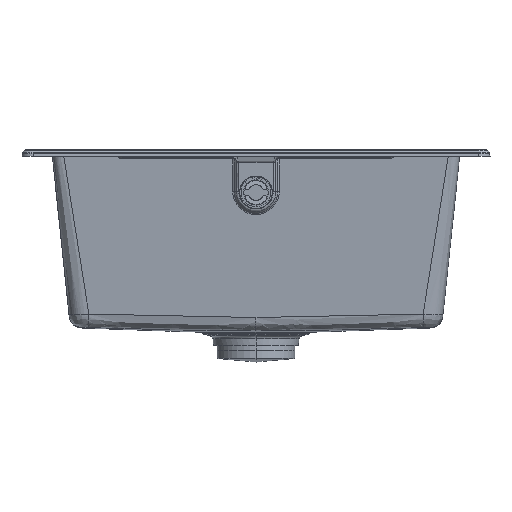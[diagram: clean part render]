
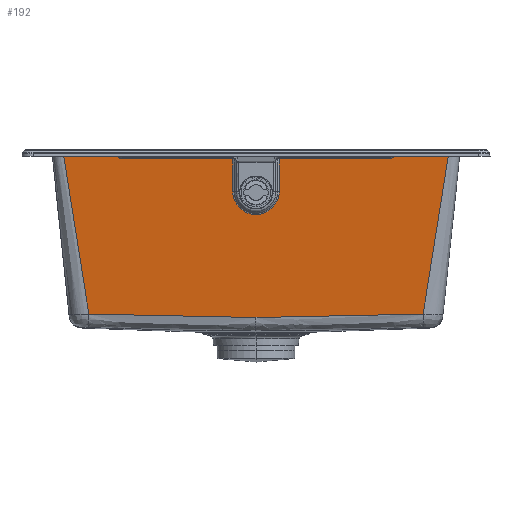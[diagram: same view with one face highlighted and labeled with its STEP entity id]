
A CAD part, left-side view. The second image highlights one B-rep face of the part: STEP entity #192.
In plain terms, the highlighted planar face has unit normal (0.995, 0, 0.104).
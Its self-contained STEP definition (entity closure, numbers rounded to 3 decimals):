
#192=ADVANCED_FACE('',(#610),#7096,.T.);
#610=FACE_OUTER_BOUND('',#1030,.T.);
#1030=EDGE_LOOP('',(#1818,#1819,#1820,#1821,#1822,#1823,#1824,#1825,#1826,
#1827,#1828,#1829,#1830,#1831,#1832));
#1818=ORIENTED_EDGE('',*,*,#3933,.F.);
#1819=ORIENTED_EDGE('',*,*,#3932,.F.);
#1820=ORIENTED_EDGE('',*,*,#3931,.F.);
#1821=ORIENTED_EDGE('',*,*,#3930,.F.);
#1822=ORIENTED_EDGE('',*,*,#3951,.F.);
#1823=ORIENTED_EDGE('',*,*,#3929,.F.);
#1824=ORIENTED_EDGE('',*,*,#3928,.F.);
#1825=ORIENTED_EDGE('',*,*,#3927,.F.);
#1826=ORIENTED_EDGE('',*,*,#3971,.F.);
#1827=ORIENTED_EDGE('',*,*,#3926,.F.);
#1828=ORIENTED_EDGE('',*,*,#3908,.F.);
#1829=ORIENTED_EDGE('',*,*,#3925,.F.);
#1830=ORIENTED_EDGE('',*,*,#3924,.F.);
#1831=ORIENTED_EDGE('',*,*,#3923,.F.);
#1832=ORIENTED_EDGE('',*,*,#3922,.F.);
#3908=EDGE_CURVE('',#6136,#6135,#5364,.T.);
#3922=EDGE_CURVE('',#6145,#6112,#5374,.T.);
#3923=EDGE_CURVE('',#6112,#6117,#5375,.T.);
#3924=EDGE_CURVE('',#6117,#6146,#5376,.T.);
#3925=EDGE_CURVE('',#6146,#6136,#5377,.T.);
#3926=EDGE_CURVE('',#6135,#6144,#5378,.T.);
#3927=EDGE_CURVE('',#6147,#6148,#5379,.T.);
#3928=EDGE_CURVE('',#6148,#6149,#5380,.T.);
#3929=EDGE_CURVE('',#6149,#6150,#5381,.T.);
#3930=EDGE_CURVE('',#6151,#6152,#5382,.T.);
#3931=EDGE_CURVE('',#6152,#6153,#5383,.T.);
#3932=EDGE_CURVE('',#6153,#6154,#5384,.T.);
#3933=EDGE_CURVE('',#6154,#6145,#5385,.T.);
#3951=EDGE_CURVE('',#6150,#6151,#4945,.T.);
#3971=EDGE_CURVE('',#6144,#6147,#5400,.T.);
#4945=(
BOUNDED_CURVE()
B_SPLINE_CURVE(2,(#16535,#16536,#16537,#16538,#16539),.UNSPECIFIED.,.F.,
 .F.)
B_SPLINE_CURVE_WITH_KNOTS((3,2,3),(0.,39.,78.001),
 .UNSPECIFIED.)
CURVE()
GEOMETRIC_REPRESENTATION_ITEM()
RATIONAL_B_SPLINE_CURVE((1.,0.707,1.,0.707,1.))
REPRESENTATION_ITEM('')
);
#5364=B_SPLINE_CURVE_WITH_KNOTS('',3,(#16320,#16321,#16322,#16323),
 .UNSPECIFIED.,.F.,.F.,(4,4),(-173.816,0.),.UNSPECIFIED.);
#5374=B_SPLINE_CURVE_WITH_KNOTS('',1,(#16411,#16412),.UNSPECIFIED.,.F.,
 .F.,(2,2),(-55.887,0.),.UNSPECIFIED.);
#5375=B_SPLINE_CURVE_WITH_KNOTS('',1,(#16413,#16414),.UNSPECIFIED.,.F.,
 .F.,(2,2),(0.,173.816),.UNSPECIFIED.);
#5376=B_SPLINE_CURVE_WITH_KNOTS('',3,(#16415,#16416,#16417,#16418,#16419,
#16420,#16421,#16422),.UNSPECIFIED.,.F.,.F.,(4,1,1,1,1,4),(-1.,-0.75,-0.5,
-0.25,-0.125,0.),.UNSPECIFIED.);
#5377=B_SPLINE_CURVE_WITH_KNOTS('',3,(#16423,#16424,#16425,#16426,#16427,
#16428,#16429,#16430),.UNSPECIFIED.,.F.,.F.,(4,1,1,1,1,4),(-1.,-0.875,-0.75,
-0.5,-0.25,0.),.UNSPECIFIED.);
#5378=B_SPLINE_CURVE_WITH_KNOTS('',1,(#16431,#16432),.UNSPECIFIED.,.F.,
 .F.,(2,2),(-55.887,0.),.UNSPECIFIED.);
#5379=B_SPLINE_CURVE_WITH_KNOTS('',3,(#16433,#16434,#16435,#16436,#16437,
#16438,#16439,#16440,#16441,#16442,#16443),.UNSPECIFIED.,.F.,.F.,(4,1,1,
1,1,1,1,1,4),(-1.,-0.875,-0.75,-0.625,-0.5,-0.375,-0.25,-0.125,0.),
 .UNSPECIFIED.);
#5380=B_SPLINE_CURVE_WITH_KNOTS('',1,(#16444,#16445),.UNSPECIFIED.,.F.,
 .F.,(2,2),(-117.529,0.),.UNSPECIFIED.);
#5381=B_SPLINE_CURVE_WITH_KNOTS('',1,(#16446,#16447),.UNSPECIFIED.,.F.,
 .F.,(2,2),(0.,35.005),.UNSPECIFIED.);
#5382=B_SPLINE_CURVE_WITH_KNOTS('',1,(#16448,#16449),.UNSPECIFIED.,.F.,
 .F.,(2,2),(0.,35.005),.UNSPECIFIED.);
#5383=B_SPLINE_CURVE_WITH_KNOTS('',1,(#16450,#16451),.UNSPECIFIED.,.F.,
 .F.,(2,2),(-117.529,0.),.UNSPECIFIED.);
#5384=B_SPLINE_CURVE_WITH_KNOTS('',3,(#16452,#16453,#16454,#16455,#16456,
#16457,#16458,#16459,#16460,#16461,#16462),.UNSPECIFIED.,.F.,.F.,(4,1,1,
1,1,1,1,1,4),(-1.,-0.875,-0.75,-0.625,-0.5,-0.375,-0.25,-0.125,0.),
 .UNSPECIFIED.);
#5385=B_SPLINE_CURVE_WITH_KNOTS('',1,(#16463,#16464),.UNSPECIFIED.,.F.,
 .F.,(2,2),(-4.553,0.),.UNSPECIFIED.);
#5400=B_SPLINE_CURVE_WITH_KNOTS('',1,(#16634,#16635),.UNSPECIFIED.,.F.,
 .F.,(2,2),(-4.553,0.),.UNSPECIFIED.);
#6112=VERTEX_POINT('',#15054);
#6117=VERTEX_POINT('',#15059);
#6135=VERTEX_POINT('',#15077);
#6136=VERTEX_POINT('',#15078);
#6144=VERTEX_POINT('',#15086);
#6145=VERTEX_POINT('',#15087);
#6146=VERTEX_POINT('',#15088);
#6147=VERTEX_POINT('',#15089);
#6148=VERTEX_POINT('',#15090);
#6149=VERTEX_POINT('',#15091);
#6150=VERTEX_POINT('',#15092);
#6151=VERTEX_POINT('',#15093);
#6152=VERTEX_POINT('',#15094);
#6153=VERTEX_POINT('',#15095);
#6154=VERTEX_POINT('',#15096);
#7096=PLANE('',#7157);
#7157=AXIS2_PLACEMENT_3D('',#9904,#7202,$);
#7202=DIRECTION('',(0.995,0.,0.105));
#9904=CARTESIAN_POINT('',(-26.177,182.965,-196.786));
#15054=CARTESIAN_POINT('',(-46.357,141.715,-4.791));
#15059=CARTESIAN_POINT('',(-28.41,114.591,-175.537));
#15077=CARTESIAN_POINT('',(-46.357,-269.715,-4.791));
#15078=CARTESIAN_POINT('',(-28.41,-242.59,-175.537));
#15086=CARTESIAN_POINT('',(-46.357,-213.828,-4.791));
#15087=CARTESIAN_POINT('',(-46.357,85.828,-4.791));
#15088=CARTESIAN_POINT('',(-28.023,-64.,-179.225));
#15089=CARTESIAN_POINT('',(-46.019,-210.618,-8.001));
#15090=CARTESIAN_POINT('',(-45.834,-206.358,-9.768));
#15091=CARTESIAN_POINT('',(-45.834,-88.828,-9.768));
#15092=CARTESIAN_POINT('',(-42.175,-88.828,-44.581));
#15093=CARTESIAN_POINT('',(-42.175,-39.172,-44.581));
#15094=CARTESIAN_POINT('',(-45.834,-39.172,-9.768));
#15095=CARTESIAN_POINT('',(-45.834,78.358,-9.768));
#15096=CARTESIAN_POINT('',(-46.019,82.618,-8.001));
#16320=CARTESIAN_POINT('',(-28.41,-242.59,-175.537));
#16321=CARTESIAN_POINT('',(-34.392,-251.632,-118.622));
#16322=CARTESIAN_POINT('',(-40.375,-260.674,-61.706));
#16323=CARTESIAN_POINT('',(-46.357,-269.715,-4.791));
#16411=CARTESIAN_POINT('',(-46.357,85.828,-4.791));
#16412=CARTESIAN_POINT('',(-46.357,141.715,-4.791));
#16413=CARTESIAN_POINT('',(-46.357,141.715,-4.791));
#16414=CARTESIAN_POINT('',(-28.41,114.591,-175.537));
#16415=CARTESIAN_POINT('',(-28.41,114.591,-175.537));
#16416=CARTESIAN_POINT('',(-28.362,99.696,-175.993));
#16417=CARTESIAN_POINT('',(-28.269,69.909,-176.88));
#16418=CARTESIAN_POINT('',(-28.145,25.238,-178.067));
#16419=CARTESIAN_POINT('',(-28.065,-11.963,-178.825));
#16420=CARTESIAN_POINT('',(-28.029,-41.703,-179.165));
#16421=CARTESIAN_POINT('',(-28.023,-56.568,-179.225));
#16422=CARTESIAN_POINT('',(-28.023,-64.,-179.225));
#16423=CARTESIAN_POINT('',(-28.023,-64.,-179.225));
#16424=CARTESIAN_POINT('',(-28.023,-71.432,-179.225));
#16425=CARTESIAN_POINT('',(-28.029,-86.297,-179.165));
#16426=CARTESIAN_POINT('',(-28.065,-116.036,-178.825));
#16427=CARTESIAN_POINT('',(-28.145,-153.238,-178.067));
#16428=CARTESIAN_POINT('',(-28.269,-197.907,-176.88));
#16429=CARTESIAN_POINT('',(-28.362,-227.695,-175.993));
#16430=CARTESIAN_POINT('',(-28.41,-242.59,-175.537));
#16431=CARTESIAN_POINT('',(-46.357,-269.715,-4.791));
#16432=CARTESIAN_POINT('',(-46.357,-213.828,-4.791));
#16433=CARTESIAN_POINT('',(-46.019,-210.618,-8.001));
#16434=CARTESIAN_POINT('',(-46.005,-210.479,-8.14));
#16435=CARTESIAN_POINT('',(-45.977,-210.189,-8.404));
#16436=CARTESIAN_POINT('',(-45.94,-209.712,-8.758));
#16437=CARTESIAN_POINT('',(-45.908,-209.202,-9.064));
#16438=CARTESIAN_POINT('',(-45.881,-208.663,-9.319));
#16439=CARTESIAN_POINT('',(-45.86,-208.103,-9.519));
#16440=CARTESIAN_POINT('',(-45.845,-207.526,-9.663));
#16441=CARTESIAN_POINT('',(-45.836,-206.943,-9.749));
#16442=CARTESIAN_POINT('',(-45.834,-206.553,-9.768));
#16443=CARTESIAN_POINT('',(-45.834,-206.358,-9.768));
#16444=CARTESIAN_POINT('',(-45.834,-206.358,-9.768));
#16445=CARTESIAN_POINT('',(-45.834,-88.828,-9.768));
#16446=CARTESIAN_POINT('',(-45.834,-88.828,-9.768));
#16447=CARTESIAN_POINT('',(-42.175,-88.828,-44.581));
#16448=CARTESIAN_POINT('',(-42.175,-39.172,-44.581));
#16449=CARTESIAN_POINT('',(-45.834,-39.172,-9.768));
#16450=CARTESIAN_POINT('',(-45.834,-39.172,-9.768));
#16451=CARTESIAN_POINT('',(-45.834,78.358,-9.768));
#16452=CARTESIAN_POINT('',(-45.834,78.358,-9.768));
#16453=CARTESIAN_POINT('',(-45.834,78.553,-9.768));
#16454=CARTESIAN_POINT('',(-45.836,78.943,-9.749));
#16455=CARTESIAN_POINT('',(-45.845,79.526,-9.663));
#16456=CARTESIAN_POINT('',(-45.86,80.103,-9.519));
#16457=CARTESIAN_POINT('',(-45.881,80.663,-9.319));
#16458=CARTESIAN_POINT('',(-45.908,81.202,-9.064));
#16459=CARTESIAN_POINT('',(-45.94,81.712,-8.758));
#16460=CARTESIAN_POINT('',(-45.977,82.189,-8.404));
#16461=CARTESIAN_POINT('',(-46.005,82.479,-8.14));
#16462=CARTESIAN_POINT('',(-46.019,82.618,-8.001));
#16463=CARTESIAN_POINT('',(-46.019,82.618,-8.001));
#16464=CARTESIAN_POINT('',(-46.357,85.828,-4.791));
#16535=CARTESIAN_POINT('',(-42.175,-88.828,-44.581));
#16536=CARTESIAN_POINT('',(-39.579,-88.828,-69.273));
#16537=CARTESIAN_POINT('',(-39.579,-64.,-69.273));
#16538=CARTESIAN_POINT('',(-39.579,-39.172,-69.273));
#16539=CARTESIAN_POINT('',(-42.175,-39.172,-44.581));
#16634=CARTESIAN_POINT('',(-46.357,-213.828,-4.791));
#16635=CARTESIAN_POINT('',(-46.019,-210.618,-8.001));
